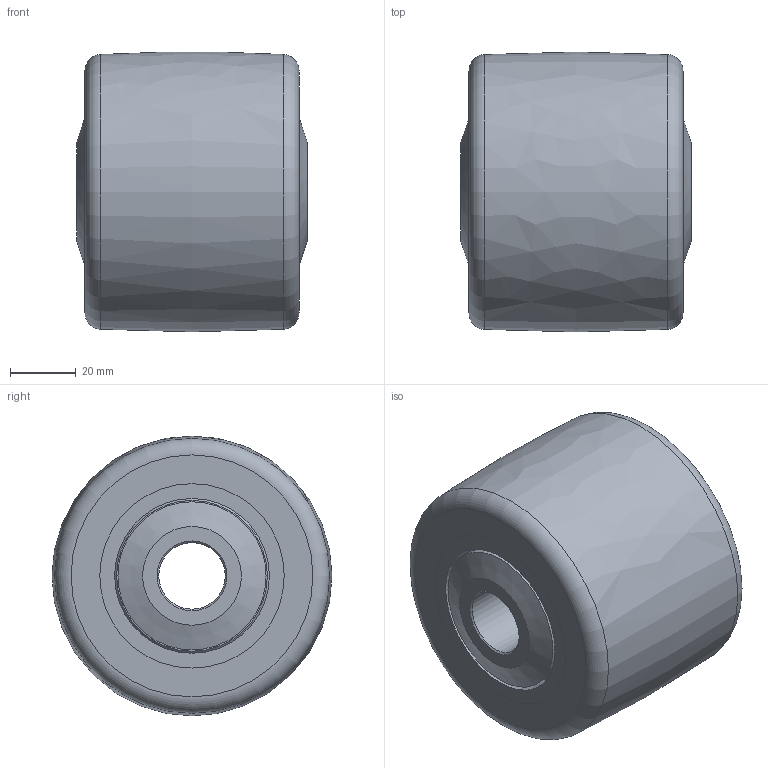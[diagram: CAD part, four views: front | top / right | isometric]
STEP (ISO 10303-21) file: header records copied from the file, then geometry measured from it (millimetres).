
FILE_DESCRIPTION(/* description */ (''),/* implementation_level */ '2;1');
FILE_NAME(/* name */ 'F:/기술영업부/홈페이지관련/2019/롤러도면/HURD-85-07020.step',/* time_stamp */ '2019-07-31T11:26:44+09:00',/* author */ (''),/* organization */ (''),/* preprocessor_version */ 'ST-DEVELOPER v18',/* originating_system */ 'Autodesk Translation Framework v8.2.0.1029',/* authorisation */ '');
FILE_SCHEMA (('AUTOMOTIVE_DESIGN { 1 0 10303 214 3 1 1 }'));
Length unit declared in the file: millimetre
Products named in the file (6): HURD-85-07020; Component1; Component2; Ball Bearing 6005; Roller_Cover D17 v2; Roller_Cover D17 v2 (1)
Assembly tree (6 placements, depth 2):
  HURD-85-07020
    Component1
    Component2
    Ball Bearing 6005  x2
    Roller_Cover D17 v2
    Roller_Cover D17 v2 (1)
Bounding box: 70 x 85 x 84.91 mm (x, y, z)
Volume: 302691.8 mm3; surface area: 90919 mm2
Topology: 40 solids, 40 shells, 124 faces, 332 edges, 238 vertices
Faces by surface type: cylinder 37, plane 30, sphere 28, cone 18, torus 10, bspline 1
Full cylindrical faces by diameter (mm): 20.2 x2, 24.8 x2, 25 x2, 30 x2, 32.923 x8, 39.077 x8, 41 x1, 45 x2, 47 x4, 53 x2, 56 x4
Entity records: 2913 total; most frequent: DIRECTION 551, CARTESIAN_POINT 486, ORIENTED_EDGE 398, AXIS2_PLACEMENT_3D 255, EDGE_CURVE 199, VERTEX_POINT 163, CIRCLE 158, EDGE_LOOP 108
